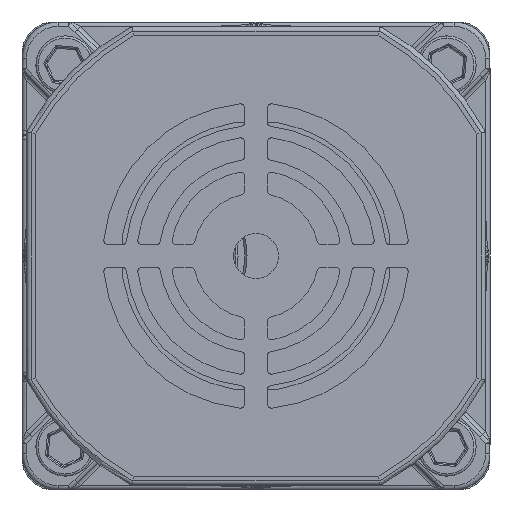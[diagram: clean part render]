
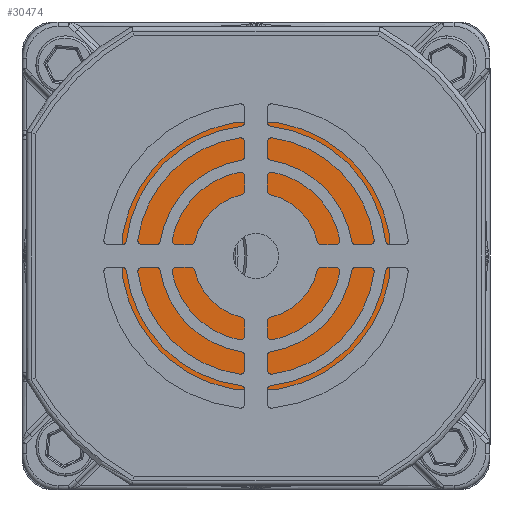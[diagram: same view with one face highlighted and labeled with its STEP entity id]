
A CAD part, front view. The second image highlights one B-rep face of the part: STEP entity #30474.
In plain terms, the highlighted planar face has unit normal (0, -1, 0).
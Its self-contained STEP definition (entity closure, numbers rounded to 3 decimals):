
#734 = CIRCLE ( 'NONE', #38908, 1.729 ) ;
#1091 = CARTESIAN_POINT ( 'NONE',  ( 0., -129., -25.271 ) ) ;
#1149 = PLANE ( 'NONE',  #27686 ) ;
#1272 = AXIS2_PLACEMENT_3D ( 'NONE', #36666, #32942, #9500 ) ;
#2929 = FACE_BOUND ( 'NONE', #3844, .T. ) ;
#3099 = CARTESIAN_POINT ( 'NONE',  ( 0., -129., -30. ) ) ;
#3112 = EDGE_CURVE ( 'NONE', #16332, #31478, #734, .T. ) ;
#3844 = EDGE_LOOP ( 'NONE', ( #27212, #44534 ) ) ;
#3990 = DIRECTION ( 'NONE',  ( 0., -1., 0. ) ) ;
#5751 = CARTESIAN_POINT ( 'NONE',  ( 0., -129., 0. ) ) ;
#5900 = DIRECTION ( 'NONE',  ( 0., -1., 0. ) ) ;
#6449 = CARTESIAN_POINT ( 'NONE',  ( 0., -129., 27. ) ) ;
#6544 = ORIENTED_EDGE ( 'NONE', *, *, #14100, .T. ) ;
#8950 = EDGE_CURVE ( 'NONE', #11553, #11867, #12064, .T. ) ;
#9103 = CARTESIAN_POINT ( 'NONE',  ( 0., -129., 0. ) ) ;
#9500 = DIRECTION ( 'NONE',  ( 0., 0., -1. ) ) ;
#11155 = FACE_BOUND ( 'NONE', #19583, .T. ) ;
#11269 = DIRECTION ( 'NONE',  ( 0., 1., 0. ) ) ;
#11553 = VERTEX_POINT ( 'NONE', #32539 ) ;
#11797 = ORIENTED_EDGE ( 'NONE', *, *, #3112, .F. ) ;
#11867 = VERTEX_POINT ( 'NONE', #3099 ) ;
#12064 = CIRCLE ( 'NONE', #1272, 30. ) ;
#12251 = FACE_BOUND ( 'NONE', #12547, .T. ) ;
#12274 = CARTESIAN_POINT ( 'NONE',  ( 0., -129., -27. ) ) ;
#12547 = EDGE_LOOP ( 'NONE', ( #14572, #11797 ) ) ;
#13711 = DIRECTION ( 'NONE',  ( 0., 0., -1. ) ) ;
#13784 = AXIS2_PLACEMENT_3D ( 'NONE', #15144, #35590, #18388 ) ;
#14100 = EDGE_CURVE ( 'NONE', #11867, #11553, #15755, .T. ) ;
#14572 = ORIENTED_EDGE ( 'NONE', *, *, #41814, .F. ) ;
#14619 = DIRECTION ( 'NONE',  ( 0., 0., -1. ) ) ;
#15144 = CARTESIAN_POINT ( 'NONE',  ( 0., -129., 0. ) ) ;
#15558 = AXIS2_PLACEMENT_3D ( 'NONE', #5751, #5900, #27032 ) ;
#15755 = CIRCLE ( 'NONE', #15558, 30. ) ;
#15793 = EDGE_CURVE ( 'NONE', #27534, #16508, #43659, .T. ) ;
#16332 = VERTEX_POINT ( 'NONE', #41438 ) ;
#16508 = VERTEX_POINT ( 'NONE', #1091 ) ;
#16830 = ORIENTED_EDGE ( 'NONE', *, *, #29375, .F. ) ;
#17362 = AXIS2_PLACEMENT_3D ( 'NONE', #12274, #36447, #36766 ) ;
#17612 = ORIENTED_EDGE ( 'NONE', *, *, #8950, .T. ) ;
#17716 = CARTESIAN_POINT ( 'NONE',  ( 0., -129., 27. ) ) ;
#18388 = DIRECTION ( 'NONE',  ( 0., 0., -1. ) ) ;
#19507 = CIRCLE ( 'NONE', #20956, 1.729 ) ;
#19583 = EDGE_LOOP ( 'NONE', ( #23200, #16830 ) ) ;
#20751 = CARTESIAN_POINT ( 'NONE',  ( 0., -129., -27. ) ) ;
#20956 = AXIS2_PLACEMENT_3D ( 'NONE', #17716, #3990, #14619 ) ;
#22252 = DIRECTION ( 'NONE',  ( 0., 0., 1. ) ) ;
#22852 = DIRECTION ( 'NONE',  ( 0., 0., -1. ) ) ;
#23200 = ORIENTED_EDGE ( 'NONE', *, *, #26428, .F. ) ;
#23843 = AXIS2_PLACEMENT_3D ( 'NONE', #20751, #41934, #31502 ) ;
#26428 = EDGE_CURVE ( 'NONE', #41453, #37284, #31812, .T. ) ;
#27032 = DIRECTION ( 'NONE',  ( 0., 0., -1. ) ) ;
#27212 = ORIENTED_EDGE ( 'NONE', *, *, #15793, .F. ) ;
#27276 = AXIS2_PLACEMENT_3D ( 'NONE', #9103, #29800, #22852 ) ;
#27534 = VERTEX_POINT ( 'NONE', #38967 ) ;
#27686 = AXIS2_PLACEMENT_3D ( 'NONE', #29053, #11269, #22252 ) ;
#28165 = CARTESIAN_POINT ( 'NONE',  ( 0., -129., 9. ) ) ;
#29053 = CARTESIAN_POINT ( 'NONE',  ( 0., -129., 0. ) ) ;
#29375 = EDGE_CURVE ( 'NONE', #37284, #41453, #40398, .T. ) ;
#29800 = DIRECTION ( 'NONE',  ( 0., -1., 0. ) ) ;
#30474 = ADVANCED_FACE ( 'NONE', ( #31037, #12251, #11155, #2929 ), #1149, .F. ) ;
#30870 = EDGE_LOOP ( 'NONE', ( #6544, #17612 ) ) ;
#31037 = FACE_OUTER_BOUND ( 'NONE', #30870, .T. ) ;
#31478 = VERTEX_POINT ( 'NONE', #39057 ) ;
#31502 = DIRECTION ( 'NONE',  ( 0., 0., -1. ) ) ;
#31812 = CIRCLE ( 'NONE', #27276, 9. ) ;
#32539 = CARTESIAN_POINT ( 'NONE',  ( 0., -129., 30. ) ) ;
#32942 = DIRECTION ( 'NONE',  ( 0., -1., 0. ) ) ;
#33329 = CIRCLE ( 'NONE', #17362, 1.729 ) ;
#35590 = DIRECTION ( 'NONE',  ( 0., -1., 0. ) ) ;
#36016 = CARTESIAN_POINT ( 'NONE',  ( 0., -129., -9. ) ) ;
#36447 = DIRECTION ( 'NONE',  ( 0., -1., 0. ) ) ;
#36666 = CARTESIAN_POINT ( 'NONE',  ( 0., -129., 0. ) ) ;
#36766 = DIRECTION ( 'NONE',  ( 0., 0., -1. ) ) ;
#37284 = VERTEX_POINT ( 'NONE', #28165 ) ;
#38161 = DIRECTION ( 'NONE',  ( 0., -1., 0. ) ) ;
#38908 = AXIS2_PLACEMENT_3D ( 'NONE', #6449, #38161, #13711 ) ;
#38967 = CARTESIAN_POINT ( 'NONE',  ( 0., -129., -28.729 ) ) ;
#39057 = CARTESIAN_POINT ( 'NONE',  ( 0., -129., 25.271 ) ) ;
#40398 = CIRCLE ( 'NONE', #13784, 9. ) ;
#40657 = EDGE_CURVE ( 'NONE', #16508, #27534, #33329, .T. ) ;
#41438 = CARTESIAN_POINT ( 'NONE',  ( 0., -129., 28.729 ) ) ;
#41453 = VERTEX_POINT ( 'NONE', #36016 ) ;
#41814 = EDGE_CURVE ( 'NONE', #31478, #16332, #19507, .T. ) ;
#41934 = DIRECTION ( 'NONE',  ( 0., -1., 0. ) ) ;
#43659 = CIRCLE ( 'NONE', #23843, 1.729 ) ;
#44534 = ORIENTED_EDGE ( 'NONE', *, *, #40657, .F. ) ;
